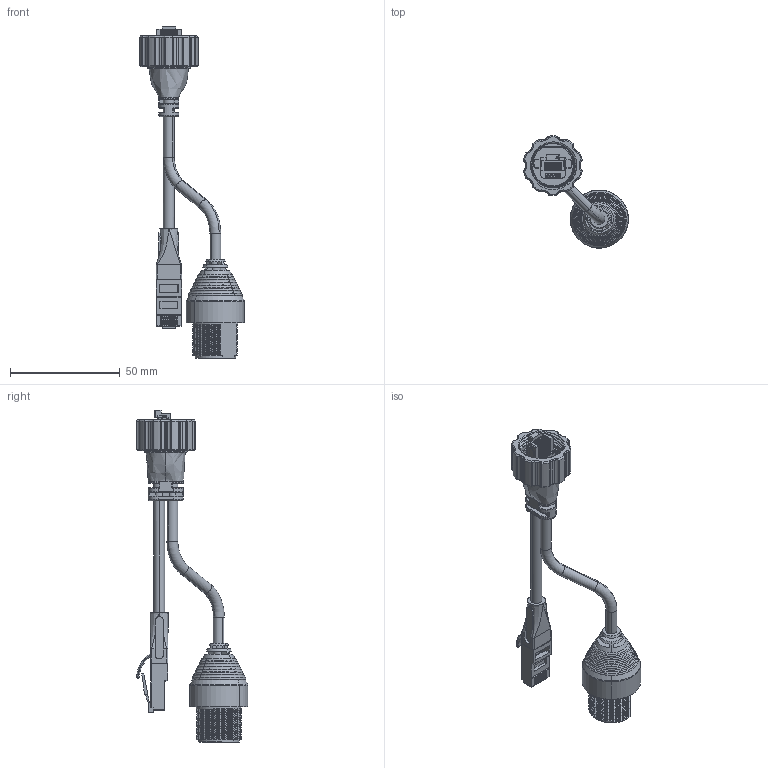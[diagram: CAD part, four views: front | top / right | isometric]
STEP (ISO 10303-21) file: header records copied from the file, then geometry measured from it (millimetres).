
FILE_DESCRIPTION (( 'STEP AP203' ), '1' );
FILE_NAME ('TXF_M22G_RJ45_xx_USB_xx.step', '2023-10-10T17:32:45', ( '' ), ( '' ), 'SwSTEP 2.0', 'SolidWorks 2019', '' );
FILE_SCHEMA (( 'CONFIG_CONTROL_DESIGN' ));
Length unit declared in the file: millimetre
Products named in the file (1): TXF_M22G_RJ45_xx_USB_xx
Bounding box: 47.78 x 51 x 151.45 mm (x, y, z)
Volume: 29305.3 mm3; surface area: 17949.8 mm2
Topology: 1 solids, 1 shells, 3636 faces, 10654 edges, 6894 vertices
Faces by surface type: plane 2740, cylinder 552, cone 176, bspline 94, torus 66, sphere 8
Entity records: 158911 total; most frequent: CARTESIAN_POINT 66963, ORIENTED_EDGE 21186, DIRECTION 16445, EDGE_CURVE 10593, LINE 6917, VECTOR 6917, VERTEX_POINT 6894, AXIS2_PLACEMENT_3D 4764
